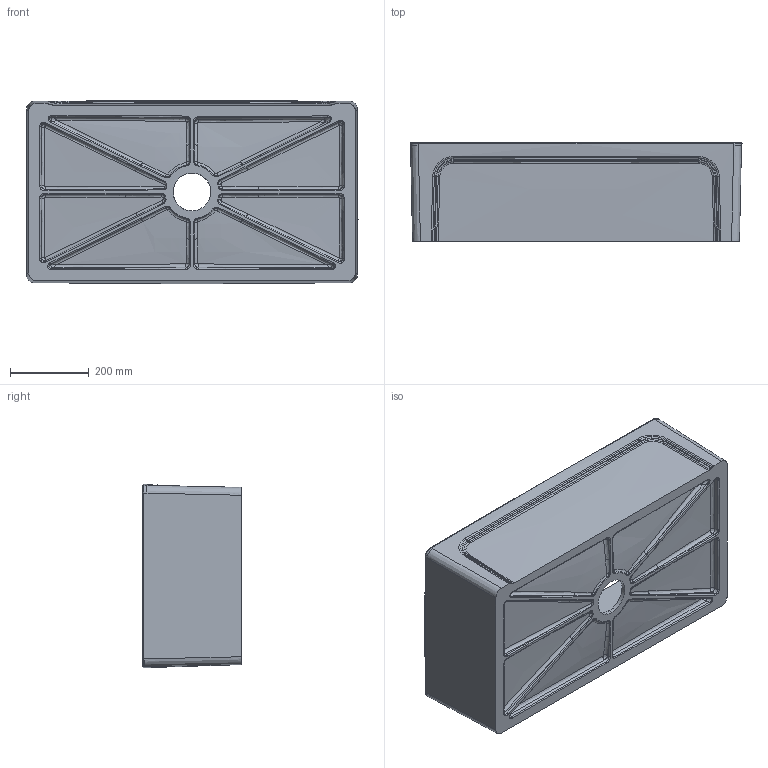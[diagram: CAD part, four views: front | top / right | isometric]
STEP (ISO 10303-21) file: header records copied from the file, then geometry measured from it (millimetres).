
FILE_DESCRIPTION (( 'STEP AP203' ), '1' );
FILE_NAME ('ES084.STEP', '2022-04-06T09:05:21', ( '' ), ( '' ), 'SwSTEP 2.0', 'SolidWorks 2021', '' );
FILE_SCHEMA (( 'CONFIG_CONTROL_DESIGN' ));
Length unit declared in the file: millimetre
Products named in the file (1): ES084
Bounding box: 843.09 x 250 x 465.8 mm (x, y, z)
Volume: 18237563.5 mm3; surface area: 1925113.8 mm2
Topology: 1 solids, 1 shells, 308 faces, 727 edges, 426 vertices
Faces by surface type: bspline 269, plane 22, cylinder 17
Entity records: 31079 total; most frequent: CARTESIAN_POINT 25878, ORIENTED_EDGE 1446, EDGE_CURVE 723, DIRECTION 515, B_SPLINE_CURVE_WITH_KNOTS 476, VERTEX_POINT 426, EDGE_LOOP 319, FACE_OUTER_BOUND 308
